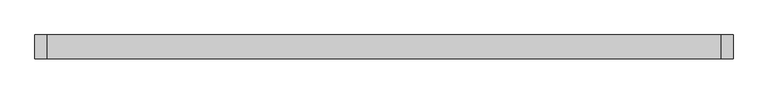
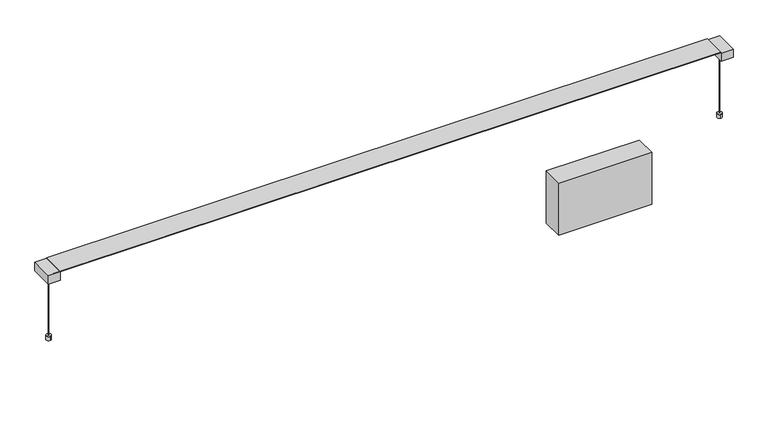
"""IFC4 building model written with IfcOpenShell, lengths in millimetres: light fixture geometry, Fabbian.Pivot F39 (F39 A01A 01,F39 A01A 21,F39 A01A 76,F39 A02A 01,F39 A02A 21,F39 A02A 76) : F39 A01A 01."""

import ifcopenshell
import ifcopenshell.guid

model = None  # the IFC model being written
_history = None  # IfcOwnerHistory: only IFC2X3 demands one
_inside = {}  # id of a spatial element -> (the spatial element, [elements in it])
_under = {}  # id of a project, library or spatial element -> (it, [spatial elements below it])
_declared = {}  # id of a project -> (the project, [libraries it declares])
_typed = {}  # id of a type object -> (the type object, [elements of that type])
_made_of = {}  # id of a material, layer set ... -> (it, [elements and type objects made of it])


def new_model(schema):
    """Start an empty IFC model of exactly this schema.

    Asked for "IFC4X3", IfcOpenShell would pick the latest addendum, in which some entities
    have other attributes; the version numbers below select the first issue.
    IFC2X3 requires an IfcOwnerHistory on every rooted entity: one is made here for all.
    """
    global model, _history
    if schema == "IFC4X3":
        model = ifcopenshell.file(schema_version=(4, 3, 0, 0))
    else:
        model = ifcopenshell.file(schema=schema)
    _inside.clear()
    _under.clear()
    _declared.clear()
    _typed.clear()
    _made_of.clear()
    _history = None
    if model.schema == "IFC2X3":
        org = make("IfcOrganization", Name="unknown")
        user = make(
            "IfcPersonAndOrganization",
            ThePerson=make("IfcPerson", FamilyName="unknown"),
            TheOrganization=org,
        )
        app = make(
            "IfcApplication",
            ApplicationDeveloper=org,
            Version="unknown",
            ApplicationFullName="unknown",
            ApplicationIdentifier="unknown",
        )
        _history = make(
            "IfcOwnerHistory",
            OwningUser=user,
            OwningApplication=app,
            ChangeAction="ADDED",
            CreationDate=0,
        )
    return model


def make(cls, **values):
    """One entity of the class cls with the attributes given. An attribute that is None is left unset."""
    return model.create_entity(
        cls, **{name: value for name, value in values.items() if value is not None}
    )


def rooted(cls, **values):
    """An entity with a GlobalId (a new one), such as an element, a storey or a relation."""
    return make(cls, GlobalId=ifcopenshell.guid.new(), OwnerHistory=_history, **values)


def si_unit(unit_type, name, prefix=None):
    """IfcSIUnit, for example si_unit("LENGTHUNIT", "METRE", prefix="MILLI")."""
    return make("IfcSIUnit", UnitType=unit_type, Prefix=prefix, Name=name)


def assignment(units):
    """IfcUnitAssignment: the units of a project."""
    return None if units is None else make("IfcUnitAssignment", Units=units)


def point(xyz):
    """IfcCartesianPoint."""
    return None if xyz is None else make("IfcCartesianPoint", Coordinates=xyz)


def direction(xyz):
    """IfcDirection."""
    return None if xyz is None else make("IfcDirection", DirectionRatios=xyz)


def frame(location, z_axis=None, x_axis=None):
    """IfcAxis2Placement3D, a coordinate frame: its origin and axes. An axis left out is left unset."""
    return make(
        "IfcAxis2Placement3D",
        Location=point(location),
        Axis=direction(z_axis),
        RefDirection=direction(x_axis),
    )


def frame_2d(location, x_axis=None):
    """IfcAxis2Placement2D, a coordinate frame in the plane: its origin and x axis."""
    return make(
        "IfcAxis2Placement2D", Location=point(location), RefDirection=direction(x_axis)
    )


def origin():
    """The frame at (0, 0, 0) with its axes left unset."""
    return frame((0.0, 0.0, 0.0))


def origin_with_axes():
    """The frame at (0, 0, 0) with the z axis (0, 0, 1) and the x axis (1, 0, 0) written out."""
    return frame((0.0, 0.0, 0.0), z_axis=(0.0, 0.0, 1.0), x_axis=(1.0, 0.0, 0.0))


def place(relative_to, where):
    """IfcLocalPlacement: puts the frame where relative to a parent placement (None: the world)."""
    return make(
        "IfcLocalPlacement", PlacementRelTo=relative_to, RelativePlacement=where
    )


def context(
    kind, dimensions, precision=None, world=None, true_north=None, identifier=None
):
    """IfcGeometricRepresentationContext, for example the 3D "Model" context."""
    return make(
        "IfcGeometricRepresentationContext",
        ContextIdentifier=identifier,
        ContextType=kind,
        CoordinateSpaceDimension=dimensions,
        Precision=precision,
        WorldCoordinateSystem=world,
        TrueNorth=true_north,
    )


def project(units=None, contexts=None):
    """IfcProject with its units and contexts."""
    return rooted(
        "IfcProject",
        Name="project",
        RepresentationContexts=contexts,
        UnitsInContext=assignment(units),
    )


def spatial(cls, under=None, at=None, **own):
    """A site, building, storey or space (cls), placed at a placement, below another one or the project."""
    s = rooted(cls, ObjectPlacement=at, **own)
    if under is not None:
        _under.setdefault(under.id(), (under, []))[1].append(s)
    return s


def polyline(points):
    """IfcPolyline through the points."""
    return make("IfcPolyline", Points=[point(p) for p in points])


def circle_curve(where, radius):
    """IfcCircle in the frame where."""
    return make("IfcCircle", Position=where, Radius=radius)


def trimmed(basis, trim1, trim2, sense, master):
    """IfcTrimmedCurve: the piece of a basis curve between two trims."""
    return make(
        "IfcTrimmedCurve",
        BasisCurve=basis,
        Trim1=trim1,
        Trim2=trim2,
        SenseAgreement=sense,
        MasterRepresentation=master,
    )


def segment(curve, same_sense, transition):
    """IfcCompositeCurveSegment."""
    return make(
        "IfcCompositeCurveSegment",
        Transition=transition,
        SameSense=same_sense,
        ParentCurve=curve,
    )


def composite_curve(segments, self_intersect=None):
    """IfcCompositeCurve: segments joined end to end."""
    return make("IfcCompositeCurve", Segments=segments, SelfIntersect=self_intersect)


def outline(outer, holes=None, kind="AREA"):
    """IfcArbitraryClosedProfileDef: a profile drawn as a closed curve; with holes, ...WithVoids."""
    if holes is None:
        return make("IfcArbitraryClosedProfileDef", ProfileType=kind, OuterCurve=outer)
    return make(
        "IfcArbitraryProfileDefWithVoids",
        ProfileType=kind,
        OuterCurve=outer,
        InnerCurves=holes,
    )


def extrude(swept, where, along, depth):
    """IfcExtrudedAreaSolid: the profile swept, set in the frame where, extruded along a direction by depth."""
    return make(
        "IfcExtrudedAreaSolid",
        SweptArea=swept,
        Position=where,
        ExtrudedDirection=direction(along),
        Depth=depth,
    )


def shape(context_of_items, identifier, shape_type, items):
    """IfcShapeRepresentation: the items that make up one representation, for example the "Body"."""
    return make(
        "IfcShapeRepresentation",
        ContextOfItems=context_of_items,
        RepresentationIdentifier=identifier,
        RepresentationType=shape_type,
        Items=items,
    )


def source(mapping_origin, context_of_items, identifier, shape_type, items):
    """IfcRepresentationMap: a shape defined once, which mapped items show again and again."""
    return make(
        "IfcRepresentationMap",
        MappingOrigin=mapping_origin,
        MappedRepresentation=shape(context_of_items, identifier, shape_type, items),
    )


def transform(
    local_origin,
    x_axis=None,
    y_axis=None,
    z_axis=None,
    scale=None,
    scale2=None,
    scale3=None,
    uniform=True,
):
    """IfcCartesianTransformationOperator3D, or its non-uniform kind. x_axis, y_axis, z_axis: its Axis1, 2, 3."""
    if uniform:
        return make(
            "IfcCartesianTransformationOperator3D",
            Axis1=direction(x_axis),
            Axis2=direction(y_axis),
            LocalOrigin=point(local_origin),
            Scale=scale,
            Axis3=direction(z_axis),
        )
    return make(
        "IfcCartesianTransformationOperator3DnonUniform",
        Axis1=direction(x_axis),
        Axis2=direction(y_axis),
        LocalOrigin=point(local_origin),
        Scale=scale,
        Axis3=direction(z_axis),
        Scale2=scale2,
        Scale3=scale3,
    )


def mapped(mapping_source, mapping_target):
    """IfcMappedItem: shows the shape of a source again, moved by a transform."""
    return make(
        "IfcMappedItem", MappingSource=mapping_source, MappingTarget=mapping_target
    )


def made_of(thing, what):
    """Note that an element or type object is made of a material, layer set ...; save() writes the relation."""
    if what is not None:
        _made_of.setdefault(what.id(), (what, []))[1].append(thing)
    return thing


def element(
    cls,
    number,
    at=None,
    inside=None,
    cuts=None,
    type_object=None,
    material=None,
    context=None,
    identifier="Body",
    shape_type=None,
    held_by="IfcProductDefinitionShape",
    body=None,
    shapes=None,
    **own,
):
    """One element of the class cls, such as IfcWall. Its Tag is "e" and its number.

    at: its placement. inside: the storey or other place that contains it. cuts: it is an
    opening in that element (IfcRelVoidsElement). A single representation is given by context,
    identifier, shape_type and body (its items); several are given by shapes. held_by: the class
    of the entity that holds the representations. save() writes the other relations.
    """
    e = rooted(cls, Tag="e%d" % number, ObjectPlacement=at, **own)
    if body is not None:
        shapes = [shape(context, identifier, shape_type, body)]
    if shapes is not None:
        e.Representation = make(held_by, Representations=shapes)
    if inside is not None:
        _inside.setdefault(inside.id(), (inside, []))[1].append(e)
    if cuts is not None:
        rooted(
            "IfcRelVoidsElement", RelatingBuildingElement=cuts, RelatedOpeningElement=e
        )
    if type_object is not None:
        _typed.setdefault(type_object.id(), (type_object, []))[1].append(e)
    return made_of(e, material)


def aggregate(whole, parts):
    """IfcRelAggregates: a whole, such as a stair, and the parts it consists of."""
    return rooted("IfcRelAggregates", RelatingObject=whole, RelatedObjects=parts)


def save(model, path):
    """Write the relations noted so far, then the file.

    IfcRelAggregates (storeys below a building ...), IfcRelContainedInSpatialStructure (elements
    in a storey), IfcRelDefinesByType, IfcRelAssociatesMaterial and IfcRelDeclares: one each for
    every whole, place, type object, material and project.
    """
    for whole, parts in _under.values():
        aggregate(whole, parts)
    for where, things in _inside.values():
        rooted(
            "IfcRelContainedInSpatialStructure",
            RelatedElements=things,
            RelatingStructure=where,
        )
    for kind, things in _typed.values():
        rooted("IfcRelDefinesByType", RelatedObjects=things, RelatingType=kind)
    for what, things in _made_of.values():
        rooted("IfcRelAssociatesMaterial", RelatedObjects=things, RelatingMaterial=what)
    for by, libraries in _declared.values():
        rooted("IfcRelDeclares", RelatingContext=by, RelatedDefinitions=libraries)
    model.write(path)


def light_fixture_3e24a621(model_context):
    return source(origin(), model_context, "Body", "SweptSolid", [
        extrude(outline(polyline([(619.1350388, 24.9666442), (619.1350388, -25.0334567), (399.1348055, -25.0334567), (399.1348055, 24.9666442), (619.1350388, 24.9666442)])), frame((0.0, 0.0, -142.875), z_axis=(0.0, 0.0, 1.0), x_axis=(1.0, 0.0, 0.0)), (0.0, 0.0, 1.0), 130.175),
        extrude(outline(composite_curve([segment(trimmed(circle_curve(frame_2d((794.2560169, 0.0)), 0.4949808), [point((794.7509977, 0.0))], [point((793.7610361, 0.0))], False, "CARTESIAN"), True, "CONTINUOUS"), segment(trimmed(circle_curve(frame_2d((794.2560169, 0.0)), 0.4949808), [point((793.7610361, 0.0))], [point((794.7509977, 0.0))], False, "CARTESIAN"), True, "CONTINUOUS")], self_intersect=False)), origin_with_axes(), (0.0, 0.0, 1.0), 159.6242394),
        extrude(outline(composite_curve([segment(trimmed(circle_curve(frame_2d((-794.2559882, 0.0)), 0.4949808), [point((-794.750969, 0.0))], [point((-793.7610074, 0.0))], False, "CARTESIAN"), True, "CONTINUOUS"), segment(trimmed(circle_curve(frame_2d((-794.2559882, 0.0)), 0.4949808), [point((-793.7610074, 0.0))], [point((-794.750969, 0.0))], False, "CARTESIAN"), True, "CONTINUOUS")], self_intersect=False)), origin_with_axes(), (0.0, 0.0, 1.0), 159.6242394),
        extrude(outline(polyline([(-0.4107254, 159.893756), (-26.3879175, 181.0787506), (25.5497693, 181.0787506), (0.4107259, 159.893756), (0.4107259, 160.681594), (-0.4107254, 160.681594), (-0.4107254, 159.893756)])), frame((-782.3132834, 0.0, 0.0), z_axis=(1.0, 0.0, 0.0), x_axis=(0.0, 1.0, 0.0)), (0.0, 0.0, 1.0), 1564.6265668),
        extrude(outline(polyline([(-782.3132834, 27.7285043), (-782.3132834, -27.7953166), (-810.5140956, -27.7953166), (-810.5140956, 27.7285043), (-782.3132834, 27.7285043)])), frame((0.0, 0.0, 159.6242394), z_axis=(0.0, 0.0, 1.0), x_axis=(1.0, 0.0, 0.0)), (0.0, 0.0, 1.0), 20.8761838),
        extrude(outline(polyline([(782.3132834, 27.7285042), (810.5140956, 27.7285042), (810.5140956, -27.7953167), (782.3132834, -27.7953167), (782.3132834, 27.7285042)])), frame((0.0, 0.0, 159.6242394), z_axis=(0.0, 0.0, 1.0), x_axis=(1.0, 0.0, 0.0)), (0.0, 0.0, 1.0), 20.8761838),
        extrude(outline(polyline([(0.0, -0.8214513), (0.0, 0.0), (1564.6265668, 0.0), (1564.6265668, -0.8214513), (0.0, -0.8214513)])), frame((-782.3132834, 0.4107259, 159.893756), z_axis=(-5.7155291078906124e-11, 0.0, 1.0), x_axis=(1.0, 0.0, 5.7155291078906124e-11)), (0.0, 0.0, 1.0), 0.787838),
        extrude(outline(polyline([(781.7488887, -27.7780006), (-782.3132834, -27.7780006), (-782.3132834, 27.7779986), (781.7488887, 27.7779986), (781.7488887, -27.7780006)])), frame((0.0, 0.0, 181.0787506), z_axis=(0.0, 0.0, 1.0), x_axis=(1.0, 0.0, 0.0)), (0.0, 0.0, 1.0), 1.1514277),
        extrude(outline(composite_curve([segment(trimmed(circle_curve(frame_2d((-794.2560169, -0.4556113)), 5.8155806), [point((-795.0837096, 5.3007681))], [point((-793.4283243, -6.2119906))], False, "CARTESIAN"), True, "CONTINUOUS"), segment(trimmed(circle_curve(frame_2d((-794.2560169, -0.4556113)), 5.8155806), [point((-793.4283243, -6.2119906))], [point((-795.0837096, 5.3007681))], False, "CARTESIAN"), True, "CONTINUOUS")], self_intersect=False)), origin_with_axes(), (0.0, 0.0, 1.0), 9.6582083),
        extrude(outline(composite_curve([segment(trimmed(circle_curve(frame_2d((794.2560169, -0.4556113)), 5.8155806), [point((795.0837096, 5.3007681))], [point((793.4283243, -6.2119906))], False, "CARTESIAN"), True, "CONTINUOUS"), segment(trimmed(circle_curve(frame_2d((794.2560169, -0.4556113)), 5.8155806), [point((793.4283243, -6.2119906))], [point((795.0837096, 5.3007681))], False, "CARTESIAN"), True, "CONTINUOUS")], self_intersect=False)), origin_with_axes(), (0.0, 0.0, 1.0), 9.6582083),
    ])


if __name__ == "__main__":
    model = new_model("IFC4")
    model_context = context("Model", 3, world=origin())
    ifc_project = project(units=[si_unit("LENGTHUNIT", "METRE", prefix="MILLI")], contexts=[model_context])
    site = spatial("IfcSite", under=ifc_project)
    building = spatial("IfcBuilding", under=site)
    placement = place(None, origin())
    light_fixture_shape = light_fixture_3e24a621(model_context)
    element("IfcLightFixture", 1, ObjectType="Fabbian.Pivot F39 (F39 A01A 01,F39 A01A 21,F39 A01A 76,F39 A02A 01,F39 A02A 21,F39 A02A 76) : F39 A01A 01", at=placement, inside=building, context=model_context, shape_type="MappedRepresentation", body=[
        mapped(light_fixture_shape, transform((0.0, 0.0, 0.0), x_axis=(1.0, 0.0, 0.0), y_axis=(0.0, 1.0, 0.0), z_axis=(0.0, 0.0, 1.0))),
    ])
    save(model, "model.ifc")
